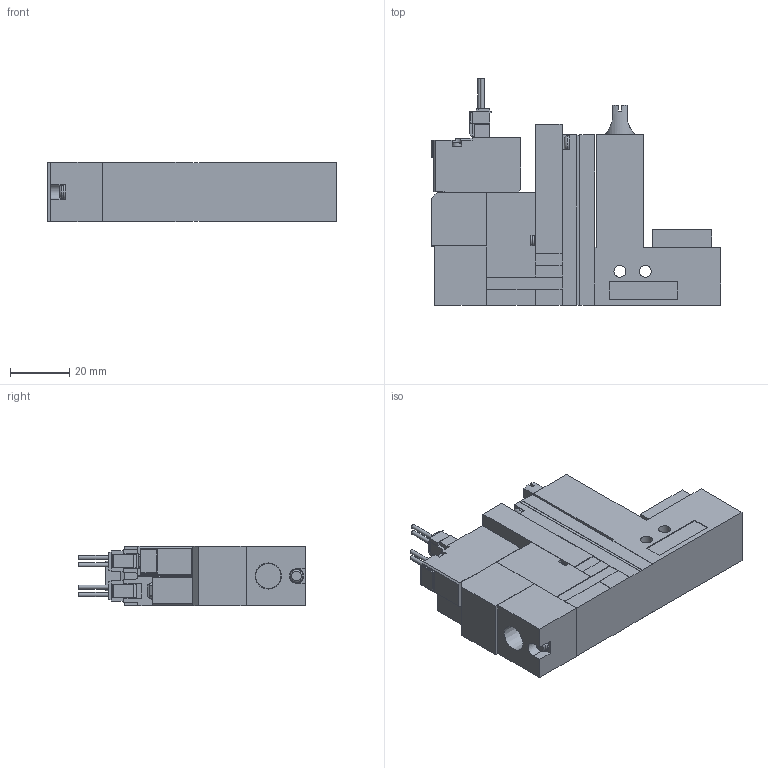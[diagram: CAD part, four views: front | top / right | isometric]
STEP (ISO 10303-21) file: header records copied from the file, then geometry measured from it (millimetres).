
FILE_DESCRIPTION(('STEP AP203'),'1');
FILE_NAME('ZLC5ALR.stp','2025-02-16T23:58:42',(' '),(' '),'Spatial InterOp 3D',' ',' ');
FILE_SCHEMA(('CONFIG_CONTROL_DESIGN'));
Length unit declared in the file: millimetre
Products named in the file (5): BMC22S※※※※ZLC5ALR; Solenoid valve A; Pressure sensor ZLC; Unit LC; Base SR10R
Assembly tree (4 placements, depth 2):
  BMC22S※※※※ZLC5ALR
    Solenoid valve A
    Pressure sensor ZLC
    Unit LC
    Base SR10R
Bounding box: 97.6 x 76.45 x 20 mm (x, y, z)
Volume: 89757.1 mm3; surface area: 23523.1 mm2
Topology: 4 solids, 4 shells, 385 faces, 1034 edges, 678 vertices
Faces by surface type: plane 336, cylinder 38, cone 6, torus 5
Full cylindrical faces by diameter (mm): 1.4 x4, 2.5 x1, 3 x4, 3.5 x4, 3.6 x1, 4 x2, 4.134 x1, 6 x1
Entity records: 12033 total; most frequent: CARTESIAN_POINT 2208, ORIENTED_EDGE 1994, DIRECTION 1885, EDGE_CURVE 997, LINE 877, VECTOR 877, VERTEX_POINT 671, AXIS2_PLACEMENT_3D 504
